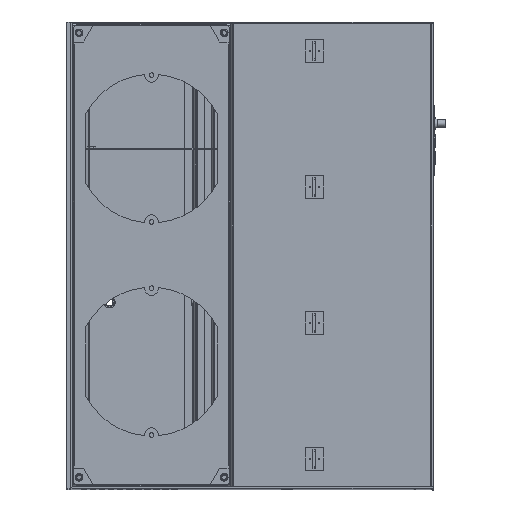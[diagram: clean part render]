
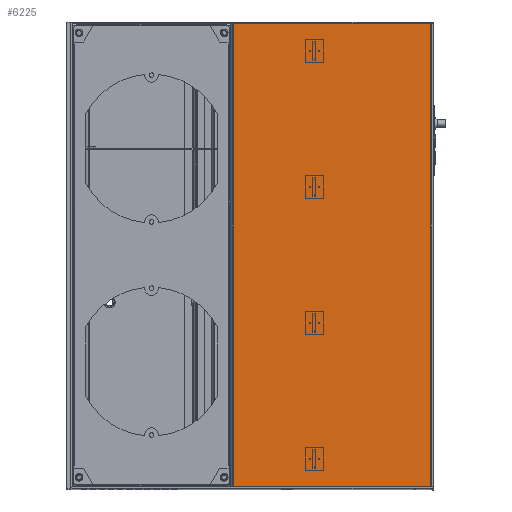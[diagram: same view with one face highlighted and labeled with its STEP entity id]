
A CAD part, top view. The second image highlights one B-rep face of the part: STEP entity #6225.
In plain terms, the highlighted planar face has unit normal (0, 0, 1) as drawn and (0, 0, -1) by its records, which use the part's own axes.
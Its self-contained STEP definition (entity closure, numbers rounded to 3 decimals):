
#6225=ADVANCED_FACE('',(#14751),#14753,.T.);
#14751=FACE_BOUND('',#14752,.T.);
#14752=EDGE_LOOP('',(#31435,#31436,#31437,#31438));
#14753=PLANE('',#14754);
#14754=AXIS2_PLACEMENT_3D('',#14755,#14756,#14757);
#14755=CARTESIAN_POINT('',(0.,34.084,-40.));
#14756=DIRECTION('',(0.,0.,-1.));
#14757=DIRECTION('',(-1.,0.,0.));
#31435=ORIENTED_EDGE('',*,*,#40715,.T.);
#31436=ORIENTED_EDGE('',*,*,#40716,.T.);
#31437=ORIENTED_EDGE('',*,*,#40717,.T.);
#31438=ORIENTED_EDGE('',*,*,#40718,.T.);
#40715=EDGE_CURVE('',#47195,#47196,#47197,.T.);
#40716=EDGE_CURVE('',#47196,#47198,#47199,.T.);
#40717=EDGE_CURVE('',#47198,#47200,#47201,.T.);
#40718=EDGE_CURVE('',#47200,#47195,#47202,.T.);
#47195=VERTEX_POINT('',#60201);
#47196=VERTEX_POINT('',#60202);
#47197=LINE('',#60203,#60204);
#47198=VERTEX_POINT('',#60206);
#47199=LINE('',#60207,#60208);
#47200=VERTEX_POINT('',#60210);
#47201=LINE('',#60211,#60212);
#47202=LINE('',#60214,#60215);
#60201=CARTESIAN_POINT('',(255.,-220.5,-40.));
#60202=CARTESIAN_POINT('',(-255.,-220.5,-40.));
#60203=CARTESIAN_POINT('',(255.,-220.5,-40.));
#60204=VECTOR('',#60205,1.);
#60205=DIRECTION('',(-1.,0.,0.));
#60206=CARTESIAN_POINT('',(-255.,-2.5,-40.));
#60207=CARTESIAN_POINT('',(-255.,-220.5,-40.));
#60208=VECTOR('',#60209,1.);
#60209=DIRECTION('',(0.,1.,0.));
#60210=CARTESIAN_POINT('',(255.,-2.5,-40.));
#60211=CARTESIAN_POINT('',(-255.,-2.5,-40.));
#60212=VECTOR('',#60213,1.);
#60213=DIRECTION('',(1.,0.,0.));
#60214=CARTESIAN_POINT('',(255.,-2.5,-40.));
#60215=VECTOR('',#60216,1.);
#60216=DIRECTION('',(0.,-1.,0.));
